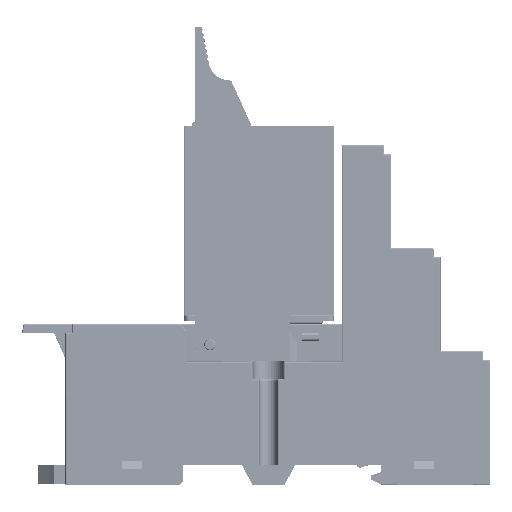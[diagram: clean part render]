
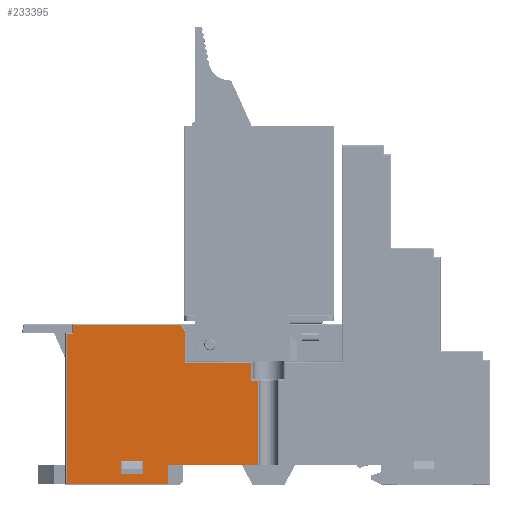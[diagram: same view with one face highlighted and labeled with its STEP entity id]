
A CAD part, top view. The second image highlights one B-rep face of the part: STEP entity #233395.
In plain terms, the highlighted planar face has unit normal (0, 0, 1).
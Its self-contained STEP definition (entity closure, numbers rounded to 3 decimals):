
#2187 = CARTESIAN_POINT ( 'NONE',  ( -54.648, -15.232, 13.45 ) ) ;
#9326 = ORIENTED_EDGE ( 'NONE', *, *, #256643, .T. ) ;
#13034 = CARTESIAN_POINT ( 'NONE',  ( -21.498, -5.232, 13.45 ) ) ;
#16333 = DIRECTION ( 'NONE',  ( -1., 0., 0. ) ) ;
#17233 = EDGE_CURVE ( 'NONE', #202300, #52878, #171732, .T. ) ;
#18016 = CARTESIAN_POINT ( 'NONE',  ( -37.698, -5.232, 13.45 ) ) ;
#24452 = EDGE_CURVE ( 'NONE', #221096, #93055, #49057, .T. ) ;
#24802 = CARTESIAN_POINT ( 'NONE',  ( -54.648, -32.082, 13.45 ) ) ;
#24862 = CARTESIAN_POINT ( 'NONE',  ( -55.848, -6.832, 13.45 ) ) ;
#25398 = EDGE_CURVE ( 'NONE', #146100, #45573, #270088, .T. ) ;
#30252 = CARTESIAN_POINT ( 'NONE',  ( -55.848, -5.232, 13.45 ) ) ;
#30546 = VERTEX_POINT ( 'NONE', #56542 ) ;
#31335 = CARTESIAN_POINT ( 'NONE',  ( -54.648, -5.232, 13.45 ) ) ;
#32005 = CARTESIAN_POINT ( 'NONE',  ( -34.648, -12.032, 13.45 ) ) ;
#35375 = CARTESIAN_POINT ( 'NONE',  ( -54.648, -33.882, 13.45 ) ) ;
#42509 = CARTESIAN_POINT ( 'NONE',  ( -54.648, -29.682, 13.45 ) ) ;
#42984 = VECTOR ( 'NONE', #172294, 1000. ) ;
#44669 = LINE ( 'NONE', #2187, #225648 ) ;
#44984 = CARTESIAN_POINT ( 'NONE',  ( -54.648, -5.232, 13.45 ) ) ;
#45573 = VERTEX_POINT ( 'NONE', #24862 ) ;
#48987 = EDGE_CURVE ( 'NONE', #52878, #62339, #44669, .T. ) ;
#49057 = LINE ( 'NONE', #266323, #88630 ) ;
#51304 = ORIENTED_EDGE ( 'NONE', *, *, #105712, .T. ) ;
#52878 = VERTEX_POINT ( 'NONE', #83541 ) ;
#53669 = ORIENTED_EDGE ( 'NONE', *, *, #25398, .T. ) ;
#56542 = CARTESIAN_POINT ( 'NONE',  ( -55.848, -33.882, 13.45 ) ) ;
#60769 = CARTESIAN_POINT ( 'NONE',  ( -54.648, -5.232, 13.45 ) ) ;
#62339 = VERTEX_POINT ( 'NONE', #153041 ) ;
#62993 = ORIENTED_EDGE ( 'NONE', *, *, #24452, .T. ) ;
#65899 = VECTOR ( 'NONE', #108755, 1000. ) ;
#66250 = CARTESIAN_POINT ( 'NONE',  ( -22.648, -5.232, 13.45 ) ) ;
#66805 = DIRECTION ( 'NONE',  ( 0., 1., 0. ) ) ;
#67822 = VECTOR ( 'NONE', #123894, 1000. ) ;
#68191 = EDGE_CURVE ( 'NONE', #213711, #75907, #276642, .T. ) ;
#70214 = LINE ( 'NONE', #24802, #185185 ) ;
#75907 = VERTEX_POINT ( 'NONE', #141758 ) ;
#77575 = VERTEX_POINT ( 'NONE', #196464 ) ;
#79324 = LINE ( 'NONE', #103546, #168119 ) ;
#82788 = PLANE ( 'NONE',  #167187 ) ;
#83430 = DIRECTION ( 'NONE',  ( -1., 0., 0. ) ) ;
#83541 = CARTESIAN_POINT ( 'NONE',  ( -21.498, -15.232, 13.45 ) ) ;
#83642 = DIRECTION ( 'NONE',  ( 1., 0., 0. ) ) ;
#86555 = VECTOR ( 'NONE', #241712, 1000. ) ;
#87416 = LINE ( 'NONE', #66250, #132959 ) ;
#88630 = VECTOR ( 'NONE', #128965, 1000. ) ;
#93055 = VERTEX_POINT ( 'NONE', #206116 ) ;
#93401 = ORIENTED_EDGE ( 'NONE', *, *, #94169, .T. ) ;
#94169 = EDGE_CURVE ( 'NONE', #93055, #282516, #118519, .T. ) ;
#96369 = LINE ( 'NONE', #31335, #165753 ) ;
#103546 = CARTESIAN_POINT ( 'NONE',  ( -42.098, -5.232, 13.45 ) ) ;
#105497 = FACE_BOUND ( 'NONE', #208077, .T. ) ;
#105712 = EDGE_CURVE ( 'NONE', #282516, #257760, #96369, .T. ) ;
#105776 = LINE ( 'NONE', #18016, #65899 ) ;
#107460 = EDGE_CURVE ( 'NONE', #62339, #133295, #87416, .T. ) ;
#108755 = DIRECTION ( 'NONE',  ( 0., 1., 0. ) ) ;
#114059 = VECTOR ( 'NONE', #296830, 1000. ) ;
#118519 = LINE ( 'NONE', #228828, #114059 ) ;
#119535 = VERTEX_POINT ( 'NONE', #147735 ) ;
#121094 = CARTESIAN_POINT ( 'NONE',  ( -21.498, -30.382, 13.45 ) ) ;
#122811 = CARTESIAN_POINT ( 'NONE',  ( -54.648, -12.032, 13.45 ) ) ;
#123894 = DIRECTION ( 'NONE',  ( 0., -1., 0. ) ) ;
#128271 = CARTESIAN_POINT ( 'NONE',  ( -54.648, -6.832, 13.45 ) ) ;
#128965 = DIRECTION ( 'NONE',  ( 0., 1., 0. ) ) ;
#130063 = LINE ( 'NONE', #151204, #86555 ) ;
#131409 = ORIENTED_EDGE ( 'NONE', *, *, #48987, .T. ) ;
#132959 = VECTOR ( 'NONE', #184079, 1000. ) ;
#133295 = VERTEX_POINT ( 'NONE', #227485 ) ;
#141758 = CARTESIAN_POINT ( 'NONE',  ( -46.098, -29.682, 13.45 ) ) ;
#144255 = EDGE_CURVE ( 'NONE', #164057, #202300, #130063, .T. ) ;
#146100 = VERTEX_POINT ( 'NONE', #234188 ) ;
#146813 = VECTOR ( 'NONE', #83642, 1000. ) ;
#147735 = CARTESIAN_POINT ( 'NONE',  ( -37.698, -33.882, 13.45 ) ) ;
#151204 = CARTESIAN_POINT ( 'NONE',  ( -54.648, -30.382, 13.45 ) ) ;
#151867 = CARTESIAN_POINT ( 'NONE',  ( -42.098, -29.682, 13.45 ) ) ;
#153041 = CARTESIAN_POINT ( 'NONE',  ( -22.648, -15.232, 13.45 ) ) ;
#153482 = ORIENTED_EDGE ( 'NONE', *, *, #144255, .T. ) ;
#156331 = EDGE_LOOP ( 'NONE', ( #194436, #290903, #153482, #202738, #131409, #252336, #281964, #62993, #93401, #51304, #266160, #53669, #9326 ) ) ;
#161298 = EDGE_CURVE ( 'NONE', #75907, #201151, #198095, .T. ) ;
#164057 = VERTEX_POINT ( 'NONE', #183396 ) ;
#165753 = VECTOR ( 'NONE', #259313, 1000. ) ;
#167187 = AXIS2_PLACEMENT_3D ( 'NONE', #44984, #294149, #180968 ) ;
#168119 = VECTOR ( 'NONE', #264993, 1000. ) ;
#169117 = EDGE_CURVE ( 'NONE', #133295, #221096, #241900, .T. ) ;
#170852 = LINE ( 'NONE', #241633, #42984 ) ;
#171732 = LINE ( 'NONE', #13034, #187050 ) ;
#172294 = DIRECTION ( 'NONE',  ( 0., -1., 0. ) ) ;
#175928 = EDGE_CURVE ( 'NONE', #257760, #146100, #170852, .T. ) ;
#180968 = DIRECTION ( 'NONE',  ( 1., 0., 0. ) ) ;
#183396 = CARTESIAN_POINT ( 'NONE',  ( -37.698, -30.382, 13.45 ) ) ;
#184079 = DIRECTION ( 'NONE',  ( 0., 1., 0. ) ) ;
#185185 = VECTOR ( 'NONE', #206165, 1000. ) ;
#187050 = VECTOR ( 'NONE', #286494, 1000. ) ;
#188236 = VECTOR ( 'NONE', #83430, 1000. ) ;
#191402 = VECTOR ( 'NONE', #220759, 1000. ) ;
#194436 = ORIENTED_EDGE ( 'NONE', *, *, #271250, .T. ) ;
#196464 = CARTESIAN_POINT ( 'NONE',  ( -42.098, -32.082, 13.45 ) ) ;
#198095 = LINE ( 'NONE', #42509, #191402 ) ;
#198575 = ORIENTED_EDGE ( 'NONE', *, *, #68191, .T. ) ;
#201151 = VERTEX_POINT ( 'NONE', #151867 ) ;
#202300 = VERTEX_POINT ( 'NONE', #121094 ) ;
#202738 = ORIENTED_EDGE ( 'NONE', *, *, #17233, .T. ) ;
#206116 = CARTESIAN_POINT ( 'NONE',  ( -34.648, -6.396, 13.45 ) ) ;
#206165 = DIRECTION ( 'NONE',  ( -1., 0., 0. ) ) ;
#208077 = EDGE_LOOP ( 'NONE', ( #198575, #278609, #293105, #220978 ) ) ;
#211673 = CARTESIAN_POINT ( 'NONE',  ( -46.098, -5.232, 13.45 ) ) ;
#213711 = VERTEX_POINT ( 'NONE', #257182 ) ;
#215951 = LINE ( 'NONE', #30252, #67822 ) ;
#219202 = VECTOR ( 'NONE', #16333, 1000. ) ;
#220759 = DIRECTION ( 'NONE',  ( 1., 0., 0. ) ) ;
#220978 = ORIENTED_EDGE ( 'NONE', *, *, #249390, .T. ) ;
#221096 = VERTEX_POINT ( 'NONE', #32005 ) ;
#225648 = VECTOR ( 'NONE', #231758, 1000. ) ;
#227485 = CARTESIAN_POINT ( 'NONE',  ( -22.648, -12.032, 13.45 ) ) ;
#228828 = CARTESIAN_POINT ( 'NONE',  ( -34.648, -6.396, 13.45 ) ) ;
#231758 = DIRECTION ( 'NONE',  ( -1., 0., 0. ) ) ;
#232666 = EDGE_CURVE ( 'NONE', #119535, #164057, #105776, .T. ) ;
#233395 = ADVANCED_FACE ( 'NONE', ( #105497, #289654 ), #82788, .T. ) ;
#234188 = CARTESIAN_POINT ( 'NONE',  ( -54.648, -6.832, 13.45 ) ) ;
#241633 = CARTESIAN_POINT ( 'NONE',  ( -54.648, -5.232, 13.45 ) ) ;
#241712 = DIRECTION ( 'NONE',  ( 1., 0., 0. ) ) ;
#241900 = LINE ( 'NONE', #122811, #188236 ) ;
#243816 = EDGE_CURVE ( 'NONE', #201151, #77575, #79324, .T. ) ;
#249390 = EDGE_CURVE ( 'NONE', #77575, #213711, #70214, .T. ) ;
#252336 = ORIENTED_EDGE ( 'NONE', *, *, #107460, .T. ) ;
#255481 = VECTOR ( 'NONE', #66805, 1000. ) ;
#256643 = EDGE_CURVE ( 'NONE', #45573, #30546, #215951, .T. ) ;
#257182 = CARTESIAN_POINT ( 'NONE',  ( -46.098, -32.082, 13.45 ) ) ;
#257760 = VERTEX_POINT ( 'NONE', #60769 ) ;
#259313 = DIRECTION ( 'NONE',  ( -1., 0., 0. ) ) ;
#264993 = DIRECTION ( 'NONE',  ( 0., -1., 0. ) ) ;
#266160 = ORIENTED_EDGE ( 'NONE', *, *, #175928, .T. ) ;
#266323 = CARTESIAN_POINT ( 'NONE',  ( -34.648, -5.232, 13.45 ) ) ;
#270088 = LINE ( 'NONE', #128271, #219202 ) ;
#271250 = EDGE_CURVE ( 'NONE', #30546, #119535, #284530, .T. ) ;
#273799 = CARTESIAN_POINT ( 'NONE',  ( -35.25, -5.232, 13.45 ) ) ;
#276642 = LINE ( 'NONE', #211673, #255481 ) ;
#278609 = ORIENTED_EDGE ( 'NONE', *, *, #161298, .T. ) ;
#281964 = ORIENTED_EDGE ( 'NONE', *, *, #169117, .T. ) ;
#282516 = VERTEX_POINT ( 'NONE', #273799 ) ;
#284530 = LINE ( 'NONE', #35375, #146813 ) ;
#286494 = DIRECTION ( 'NONE',  ( 0., 1., 0. ) ) ;
#289654 = FACE_OUTER_BOUND ( 'NONE', #156331, .T. ) ;
#290903 = ORIENTED_EDGE ( 'NONE', *, *, #232666, .T. ) ;
#293105 = ORIENTED_EDGE ( 'NONE', *, *, #243816, .T. ) ;
#294149 = DIRECTION ( 'NONE',  ( 0., 0., 1. ) ) ;
#296830 = DIRECTION ( 'NONE',  ( -0.459, 0.888, 0. ) ) ;
